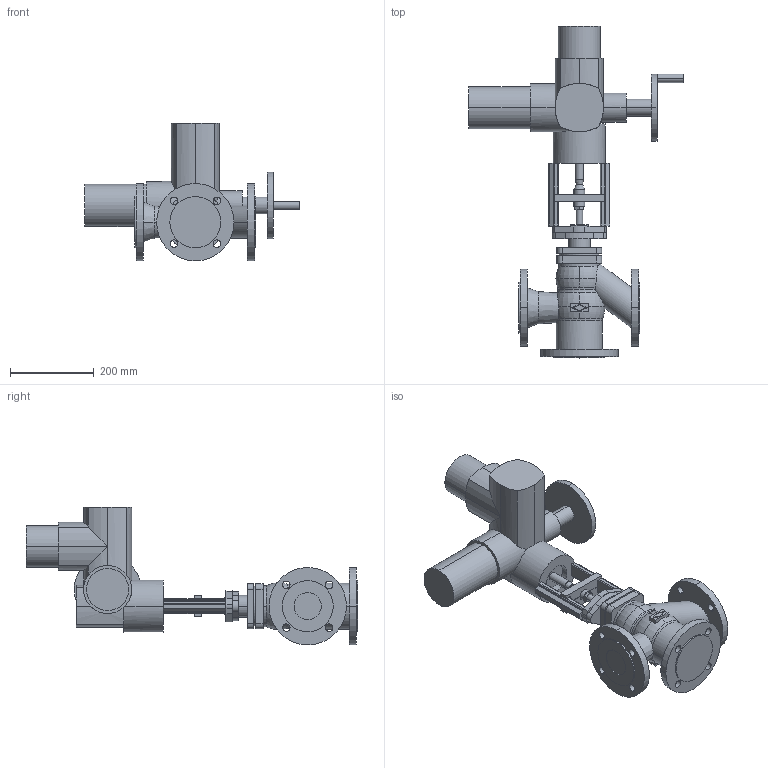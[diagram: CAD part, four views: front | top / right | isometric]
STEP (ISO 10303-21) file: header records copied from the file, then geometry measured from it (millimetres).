
FILE_DESCRIPTION(('OneSpaceDesigner STEP Export'),'2;1');
FILE_NAME('c000003151.stp','2007-01-24T 9:53:17',(''),(''),'OneSpace Designer STEP processor for AP214 (Solid Model)','OneSpace Designer 14.00B 27-May-2006 (C) CoCreate Software GmbH','');
FILE_SCHEMA(('AUTOMOTIVE_DESIGN { 1 0 10303 214 1 1 1 1 }'));
Length unit declared in the file: millimetre
Products named in the file (2): 1; 2
Bounding box: 514 x 793.5 x 329.5 mm (x, y, z)
Volume: 13332037.9 mm3; surface area: 787793.5 mm2
Topology: 2 solids, 2 shells, 297 faces, 769 edges, 493 vertices
Faces by surface type: cylinder 140, plane 131, torus 18, cone 8
Entity records: 8620 total; most frequent: CARTESIAN_POINT 1886, ORIENTED_EDGE 1538, DIRECTION 1234, EDGE_CURVE 769, VERTEX_POINT 493, AXIS2_PLACEMENT_3D 421, VECTOR 392, LINE 392
